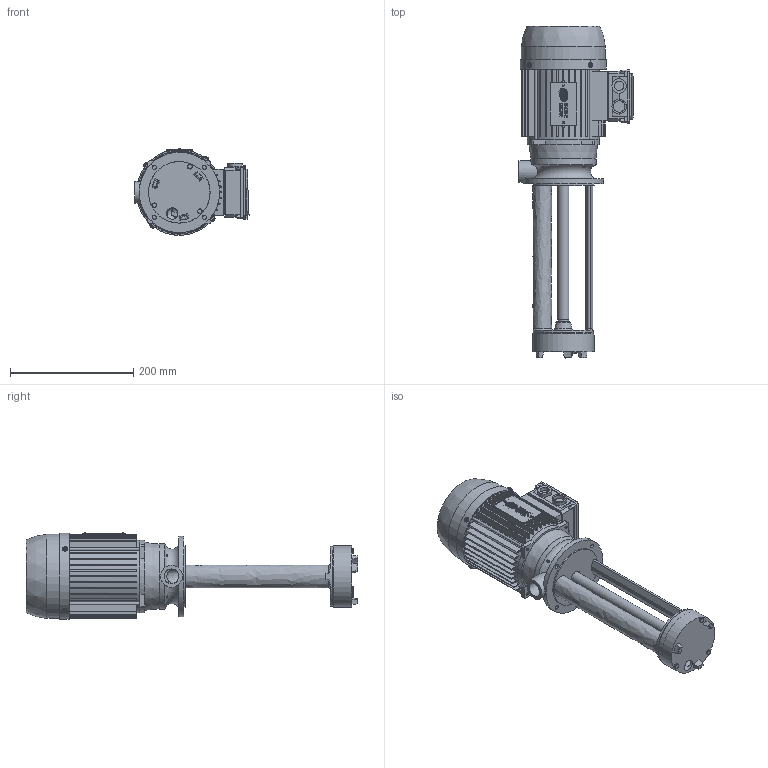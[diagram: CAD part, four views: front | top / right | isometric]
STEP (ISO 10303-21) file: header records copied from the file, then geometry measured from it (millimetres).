
FILE_DESCRIPTION(/* description */ (''),/* implementation_level */ '2;1');
FILE_NAME(/* name */ 'T:\STEP\EPC 71 B\YT71EPB++280.stp',/* time_stamp */ '2019-05-23T09:30:40+02:00',/* author */ ('cboccato'),/* organization */ (''),/* preprocessor_version */ 'ST-DEVELOPER v17.2',/* originating_system */ 'Autodesk Inventor 2019',/* authorisation */ '');
FILE_SCHEMA (('CONFIG_CONTROL_DESIGN'));
Products named in the file (1): YT71EPB++280_iLogic_Shrinkwrap
Bounding box: 185.5 x 539.6 x 141.09 mm (x, y, z)
Volume: 1416238.6 mm3; surface area: 634060.1 mm2
Topology: 14 solids, 32 shells, 2739 faces, 7757 edges, 5134 vertices
Faces by surface type: plane 1605, cylinder 706, cone 220, bspline 108, torus 89, sphere 11
Full cylindrical faces by diameter (mm): 2 x2, 2.53 x2, 3 x9, 3.5 x4, 3.621 x4, 3.9 x4, 4 x3, 4.134 x4, 4.3 x4, 4.33 x8, 4.5 x3, 4.6 x4, 5 x4, 5.5 x4, 6 x4, 6.03 x3, 7 x4, 7.2 x4, 7.75 x1, 9.6 x4, 12 x1, 15 x1, 16.6 x1, 16.8 x1, 16.99 x1, 17 x2, 17.4 x1, 17.5 x1, 18 x2, 18.5 x2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
Entity records: 101700 total; most frequent: CARTESIAN_POINT 27767, ORIENTED_EDGE 15540, DIRECTION 14071, EDGE_CURVE 7770, VERTEX_POINT 5158, AXIS2_PLACEMENT_3D 4875, LINE 4321, VECTOR 4321
